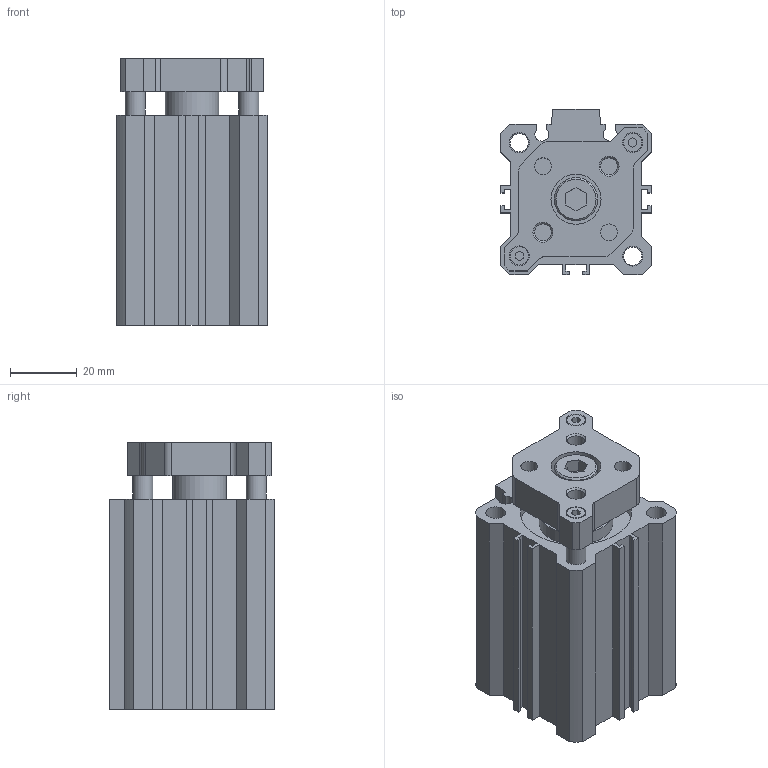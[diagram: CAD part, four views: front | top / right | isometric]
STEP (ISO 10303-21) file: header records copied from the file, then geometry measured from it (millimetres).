
FILE_DESCRIPTION(/* description */ ('STEP AP214'),/* implementation_level */ '2;1');
FILE_NAME(/* name */ 'CYL-32-30-NR.STEP',/* time_stamp */ '2026-02-10T14:22:08-05:00',/* author */ ('Design2'),/* organization */ (''),/* preprocessor_version */ 'ST-DEVELOPER v20',/* originating_system */ 'Autodesk Inventor 2025',/* authorisation */ '');
FILE_SCHEMA (('AUTOMOTIVE_DESIGN { 1 0 10303 214 3 1 1 }'));
Length unit declared in the file: inch
Products named in the file (3): CDQMA32TF-30; CQM_TUBE_32A; CQM_ROD_32
Assembly tree (2 placements, depth 2):
  CDQMA32TF-30
    CQM_TUBE_32A
    CQM_ROD_32
Bounding box: 45 x 49.5 x 80 mm (x, y, z)
Volume: 101314.5 mm3; surface area: 43330.6 mm2
Topology: 2 solids, 2 shells, 175 faces, 450 edges, 299 vertices
Faces by surface type: plane 122, cylinder 47, cone 6
Full cylindrical faces by diameter (mm): 5 x4, 5.5 x4, 6 x10, 8.8 x1, 9.728 x2, 13 x1, 15 x1, 16 x1, 16.25 x1, 22 x1, 32 x2, 33.4 x1
Entity records: 5497 total; most frequent: CARTESIAN_POINT 974, DIRECTION 907, ORIENTED_EDGE 898, EDGE_CURVE 449, LINE 341, VECTOR 341, VERTEX_POINT 299, AXIS2_PLACEMENT_3D 283
